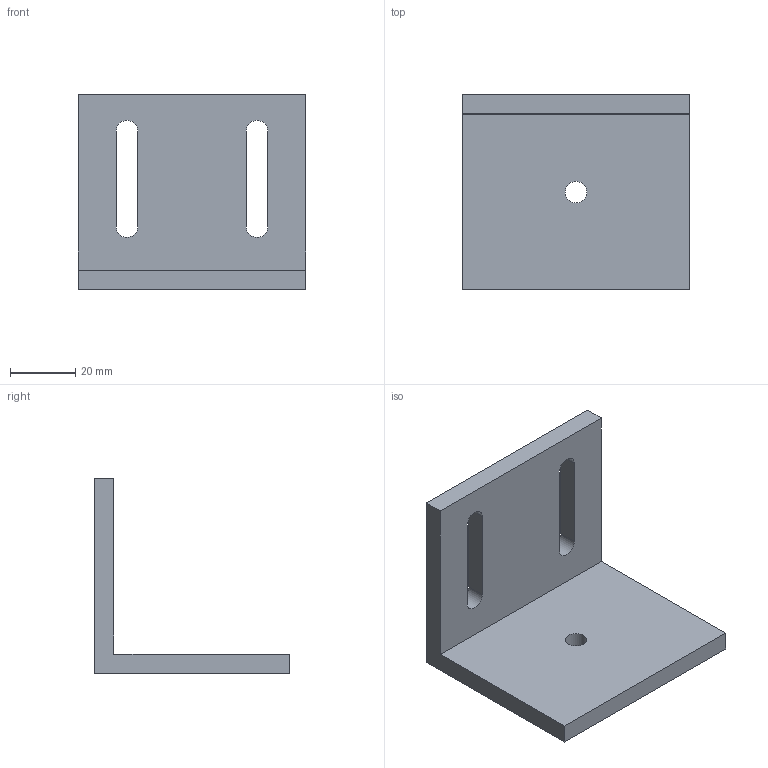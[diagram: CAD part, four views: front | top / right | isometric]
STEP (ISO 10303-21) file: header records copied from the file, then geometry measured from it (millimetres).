
FILE_DESCRIPTION(('Open CASCADE Model'),'2;1');
FILE_NAME('Open CASCADE Shape Model','2026-10-21T16:54:04',('Author'),( 'Open CASCADE'),'Open CASCADE STEP processor 7.9','Open CASCADE 7.9' ,'Unknown');
FILE_SCHEMA(('AUTOMOTIVE_DESIGN { 1 0 10303 214 1 1 1 1 }'));
Length unit declared in the file: millimetre
Products named in the file (1): Open CASCADE STEP translator 7.9 72
Bounding box: 70 x 60 x 60 mm (x, y, z)
Volume: 44935.7 mm3; surface area: 18265.4 mm2
Topology: 1 solids, 1 shells, 17 faces, 45 edges, 30 vertices
Faces by surface type: plane 12, cylinder 5
Full cylindrical faces by diameter (mm): 6.6 x1
Entity records: 1142 total; most frequent: CARTESIAN_POINT 195, DIRECTION 179, LINE 115, VECTOR 115, ORIENTED_EDGE 90, PCURVE 90, DEFINITIONAL_REPRESENTATION 90, EDGE_CURVE 45
